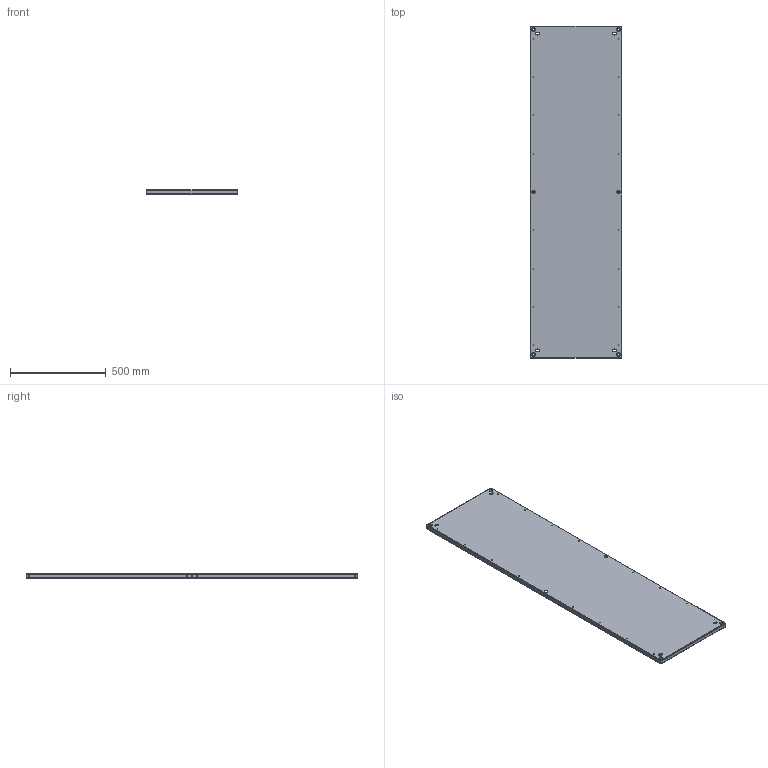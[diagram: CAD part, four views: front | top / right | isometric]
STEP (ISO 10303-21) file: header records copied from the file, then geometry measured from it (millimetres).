
FILE_DESCRIPTION(('STEP AP203'), '1');
FILE_NAME('Ïàíåëü ìîíòàæíàÿ Â1800õØ600 ìì OptiBox M 419707 ÊÝÀÇ', '', ('UNSPECIFIED'), ('UNSPECIFIED'), 'C3D Converter', 'C3D Toolkit', '');
FILE_SCHEMA(('CONFIG_CONTROL_DESIGN'));
Length unit declared in the file: millimetre
Bounding box: 478 x 1733 x 25 mm (x, y, z)
Volume: 2004477.4 mm3; surface area: 2016228.4 mm2
Topology: 1 solids, 1 shells, 132 faces, 326 edges, 196 vertices
Faces by surface type: cylinder 62, plane 54, bspline 16
Full cylindrical faces by diameter (mm): 4.6 x28, 7.3 x2, 9 x6, 18 x6
Entity records: 6168 total; most frequent: CARTESIAN_POINT 3057, DIRECTION 574, ORIENTED_EDGE 568, EDGE_CURVE 284, EDGE_LOOP 266, AXIS2_PLACEMENT_3D 209, VERTEX_POINT 196, FACE_BOUND 182
